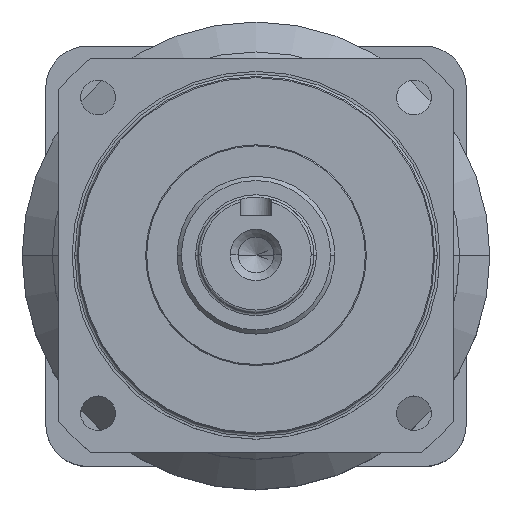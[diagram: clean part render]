
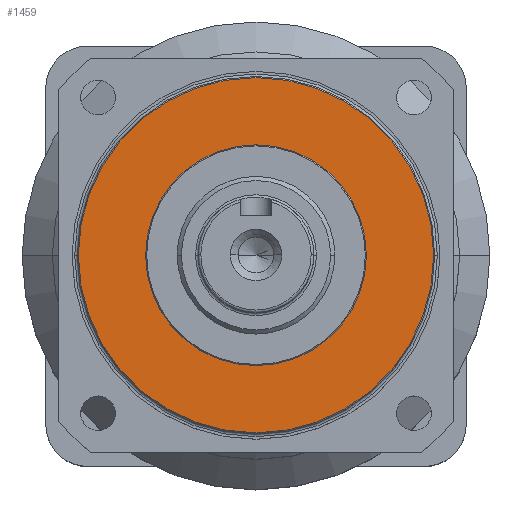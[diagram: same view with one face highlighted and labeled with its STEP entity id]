
A CAD part, top view. The second image highlights one B-rep face of the part: STEP entity #1459.
In plain terms, the highlighted planar face has unit normal (0, 0, 1).
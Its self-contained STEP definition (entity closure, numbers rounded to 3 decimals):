
#113 = EDGE_CURVE ( 'NONE', #1614, #3804, #3375, .T. ) ;
#316 = CIRCLE ( 'NONE', #3553, 21. ) ;
#381 = ORIENTED_EDGE ( 'NONE', *, *, #2162, .F. ) ;
#459 = CARTESIAN_POINT ( 'NONE',  ( 0., 0., 25. ) ) ;
#569 = CARTESIAN_POINT ( 'NONE',  ( -33.8, 0., 25. ) ) ;
#703 = ORIENTED_EDGE ( 'NONE', *, *, #3662, .T. ) ;
#1024 = DIRECTION ( 'NONE',  ( 0., 0., 1. ) ) ;
#1224 = DIRECTION ( 'NONE',  ( 1., 0., 0. ) ) ;
#1243 = EDGE_LOOP ( 'NONE', ( #381, #2718 ) ) ;
#1431 = CARTESIAN_POINT ( 'NONE',  ( 0., 0., 25. ) ) ;
#1459 = ADVANCED_FACE ( 'NONE', ( #4005, #5551 ), #5150, .T. ) ;
#1595 = DIRECTION ( 'NONE',  ( 0., 0., 1. ) ) ;
#1614 = VERTEX_POINT ( 'NONE', #2968 ) ;
#1688 = DIRECTION ( 'NONE',  ( 0., 0., 1. ) ) ;
#1722 = CARTESIAN_POINT ( 'NONE',  ( 0., 0., 25. ) ) ;
#1946 = VERTEX_POINT ( 'NONE', #4979 ) ;
#2082 = EDGE_CURVE ( 'NONE', #3429, #1946, #2867, .T. ) ;
#2104 = DIRECTION ( 'NONE',  ( 1., 0., 0. ) ) ;
#2162 = EDGE_CURVE ( 'NONE', #1946, #3429, #316, .T. ) ;
#2599 = DIRECTION ( 'NONE',  ( 1., 0., 0. ) ) ;
#2711 = ORIENTED_EDGE ( 'NONE', *, *, #113, .T. ) ;
#2718 = ORIENTED_EDGE ( 'NONE', *, *, #2082, .F. ) ;
#2866 = CARTESIAN_POINT ( 'NONE',  ( 0., 0., 25. ) ) ;
#2867 = CIRCLE ( 'NONE', #5154, 21. ) ;
#2968 = CARTESIAN_POINT ( 'NONE',  ( 33.8, 0., 25. ) ) ;
#3087 = AXIS2_PLACEMENT_3D ( 'NONE', #5537, #3377, #1224 ) ;
#3375 = CIRCLE ( 'NONE', #3689, 33.8 ) ;
#3377 = DIRECTION ( 'NONE',  ( 0., 0., 1. ) ) ;
#3429 = VERTEX_POINT ( 'NONE', #3456 ) ;
#3456 = CARTESIAN_POINT ( 'NONE',  ( 21., 0., 25. ) ) ;
#3553 = AXIS2_PLACEMENT_3D ( 'NONE', #459, #4290, #2104 ) ;
#3662 = EDGE_CURVE ( 'NONE', #3804, #1614, #4922, .T. ) ;
#3689 = AXIS2_PLACEMENT_3D ( 'NONE', #1431, #1024, #3975 ) ;
#3740 = DIRECTION ( 'NONE',  ( 1., 0., 0. ) ) ;
#3804 = VERTEX_POINT ( 'NONE', #569 ) ;
#3975 = DIRECTION ( 'NONE',  ( 1., 0., 0. ) ) ;
#4005 = FACE_BOUND ( 'NONE', #1243, .T. ) ;
#4290 = DIRECTION ( 'NONE',  ( 0., 0., 1. ) ) ;
#4922 = CIRCLE ( 'NONE', #3087, 33.8 ) ;
#4979 = CARTESIAN_POINT ( 'NONE',  ( -21., 0., 25. ) ) ;
#5150 = PLANE ( 'NONE',  #5514 ) ;
#5154 = AXIS2_PLACEMENT_3D ( 'NONE', #2866, #1595, #3740 ) ;
#5229 = EDGE_LOOP ( 'NONE', ( #703, #2711 ) ) ;
#5514 = AXIS2_PLACEMENT_3D ( 'NONE', #1722, #1688, #2599 ) ;
#5537 = CARTESIAN_POINT ( 'NONE',  ( 0., 0., 25. ) ) ;
#5551 = FACE_OUTER_BOUND ( 'NONE', #5229, .T. ) ;
